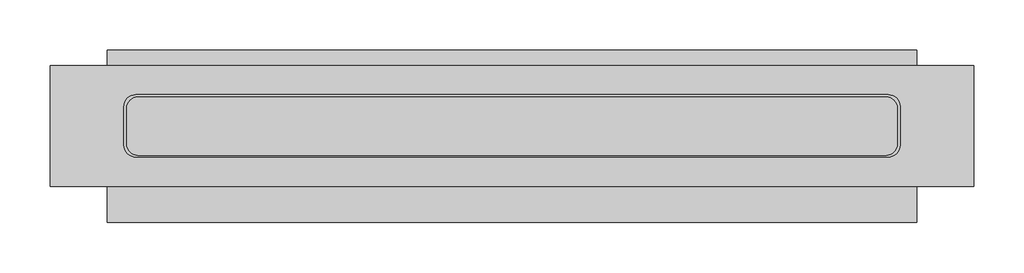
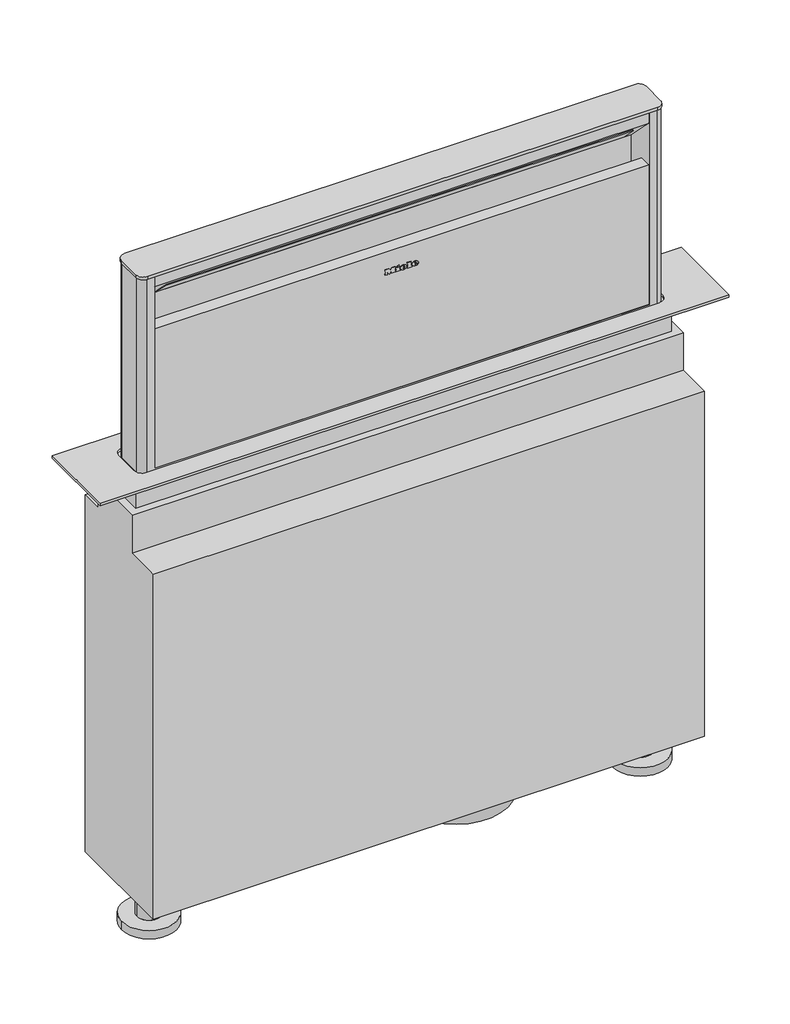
# Not in any storey: 1 proxy.
"""IFC4 building model written with IfcOpenShell, lengths in millimetres."""

import ifcopenshell
import ifcopenshell.guid

model = None  # the IFC model being written
_history = None  # IfcOwnerHistory: only IFC2X3 demands one
_inside = {}  # id of a spatial element -> (the spatial element, [elements in it])
_under = {}  # id of a project, library or spatial element -> (it, [spatial elements below it])
_declared = {}  # id of a project -> (the project, [libraries it declares])
_typed = {}  # id of a type object -> (the type object, [elements of that type])
_made_of = {}  # id of a material, layer set ... -> (it, [elements and type objects made of it])


def new_model(schema):
    """Start an empty IFC model of exactly this schema.

    Asked for "IFC4X3", IfcOpenShell would pick the latest addendum, in which some entities
    have other attributes; the version numbers below select the first issue.
    IFC2X3 requires an IfcOwnerHistory on every rooted entity: one is made here for all.
    """
    global model, _history
    if schema == "IFC4X3":
        model = ifcopenshell.file(schema_version=(4, 3, 0, 0))
    else:
        model = ifcopenshell.file(schema=schema)
    _inside.clear()
    _under.clear()
    _declared.clear()
    _typed.clear()
    _made_of.clear()
    _history = None
    if model.schema == "IFC2X3":
        org = make("IfcOrganization", Name="unknown")
        user = make(
            "IfcPersonAndOrganization",
            ThePerson=make("IfcPerson", FamilyName="unknown"),
            TheOrganization=org,
        )
        app = make(
            "IfcApplication",
            ApplicationDeveloper=org,
            Version="unknown",
            ApplicationFullName="unknown",
            ApplicationIdentifier="unknown",
        )
        _history = make(
            "IfcOwnerHistory",
            OwningUser=user,
            OwningApplication=app,
            ChangeAction="ADDED",
            CreationDate=0,
        )
    return model


def make(cls, **values):
    """One entity of the class cls with the attributes given. An attribute that is None is left unset."""
    return model.create_entity(
        cls, **{name: value for name, value in values.items() if value is not None}
    )


def rooted(cls, **values):
    """An entity with a GlobalId (a new one), such as an element, a storey or a relation."""
    return make(cls, GlobalId=ifcopenshell.guid.new(), OwnerHistory=_history, **values)


def si_unit(unit_type, name, prefix=None):
    """IfcSIUnit, for example si_unit("LENGTHUNIT", "METRE", prefix="MILLI")."""
    return make("IfcSIUnit", UnitType=unit_type, Prefix=prefix, Name=name)


def assignment(units):
    """IfcUnitAssignment: the units of a project."""
    return None if units is None else make("IfcUnitAssignment", Units=units)


def point(xyz):
    """IfcCartesianPoint."""
    return None if xyz is None else make("IfcCartesianPoint", Coordinates=xyz)


def direction(xyz):
    """IfcDirection."""
    return None if xyz is None else make("IfcDirection", DirectionRatios=xyz)


def frame(location, z_axis=None, x_axis=None):
    """IfcAxis2Placement3D, a coordinate frame: its origin and axes. An axis left out is left unset."""
    return make(
        "IfcAxis2Placement3D",
        Location=point(location),
        Axis=direction(z_axis),
        RefDirection=direction(x_axis),
    )


def frame_2d(location, x_axis=None):
    """IfcAxis2Placement2D, a coordinate frame in the plane: its origin and x axis."""
    return make(
        "IfcAxis2Placement2D", Location=point(location), RefDirection=direction(x_axis)
    )


def origin():
    """The frame at (0, 0, 0) with its axes left unset."""
    return frame((0.0, 0.0, 0.0))


def origin_with_axes():
    """The frame at (0, 0, 0) with the z axis (0, 0, 1) and the x axis (1, 0, 0) written out."""
    return frame((0.0, 0.0, 0.0), z_axis=(0.0, 0.0, 1.0), x_axis=(1.0, 0.0, 0.0))


def place(relative_to, where):
    """IfcLocalPlacement: puts the frame where relative to a parent placement (None: the world)."""
    return make(
        "IfcLocalPlacement", PlacementRelTo=relative_to, RelativePlacement=where
    )


def context(
    kind, dimensions, precision=None, world=None, true_north=None, identifier=None
):
    """IfcGeometricRepresentationContext, for example the 3D "Model" context."""
    return make(
        "IfcGeometricRepresentationContext",
        ContextIdentifier=identifier,
        ContextType=kind,
        CoordinateSpaceDimension=dimensions,
        Precision=precision,
        WorldCoordinateSystem=world,
        TrueNorth=true_north,
    )


def project(units=None, contexts=None):
    """IfcProject with its units and contexts."""
    return rooted(
        "IfcProject",
        Name="project",
        RepresentationContexts=contexts,
        UnitsInContext=assignment(units),
    )


def spatial(cls, under=None, at=None, **own):
    """A site, building, storey or space (cls), placed at a placement, below another one or the project."""
    s = rooted(cls, ObjectPlacement=at, **own)
    if under is not None:
        _under.setdefault(under.id(), (under, []))[1].append(s)
    return s


def polyline(points):
    """IfcPolyline through the points."""
    return make("IfcPolyline", Points=[point(p) for p in points])


def circle_curve(where, radius):
    """IfcCircle in the frame where."""
    return make("IfcCircle", Position=where, Radius=radius)


def ellipse_curve(where, semi_axis1, semi_axis2):
    """IfcEllipse in the frame where."""
    return make(
        "IfcEllipse", Position=where, SemiAxis1=semi_axis1, SemiAxis2=semi_axis2
    )


def trimmed(basis, trim1, trim2, sense, master):
    """IfcTrimmedCurve: the piece of a basis curve between two trims."""
    return make(
        "IfcTrimmedCurve",
        BasisCurve=basis,
        Trim1=trim1,
        Trim2=trim2,
        SenseAgreement=sense,
        MasterRepresentation=master,
    )


def segment(curve, same_sense, transition):
    """IfcCompositeCurveSegment."""
    return make(
        "IfcCompositeCurveSegment",
        Transition=transition,
        SameSense=same_sense,
        ParentCurve=curve,
    )


def composite_curve(segments, self_intersect=None):
    """IfcCompositeCurve: segments joined end to end."""
    return make("IfcCompositeCurve", Segments=segments, SelfIntersect=self_intersect)


def outline(outer, holes=None, kind="AREA"):
    """IfcArbitraryClosedProfileDef: a profile drawn as a closed curve; with holes, ...WithVoids."""
    if holes is None:
        return make("IfcArbitraryClosedProfileDef", ProfileType=kind, OuterCurve=outer)
    return make(
        "IfcArbitraryProfileDefWithVoids",
        ProfileType=kind,
        OuterCurve=outer,
        InnerCurves=holes,
    )


def extrude(swept, where, along, depth):
    """IfcExtrudedAreaSolid: the profile swept, set in the frame where, extruded along a direction by depth."""
    return make(
        "IfcExtrudedAreaSolid",
        SweptArea=swept,
        Position=where,
        ExtrudedDirection=direction(along),
        Depth=depth,
    )


def faces_of(points, faces, orient=None, outer=None):
    """IfcFace entities. A face is a list of loops; a loop is a list of indices into points, from 0.

    orient and outer hold one flag for each loop. By default every Orientation is true, the
    first loop of a face is its IfcFaceOuterBound and the others are IfcFaceBound.
    """
    made = []
    for i, loops in enumerate(faces):
        bounds = []
        for j, loop in enumerate(loops):
            is_outer = j == 0 if outer is None else outer[i][j]
            bounds.append(
                make(
                    "IfcFaceOuterBound" if is_outer else "IfcFaceBound",
                    Bound=make("IfcPolyLoop", Polygon=[points[k] for k in loop]),
                    Orientation=True if orient is None else orient[i][j],
                )
            )
        made.append(make("IfcFace", Bounds=bounds))
    return made


def faceted_brep(points, faces, orient=None, outer=None, voids=None):
    """IfcFacetedBrep: a solid bounded by flat faces; with voids (closed shells), ...WithVoids."""
    shared = [point(p) for p in points]
    hull = make("IfcClosedShell", CfsFaces=faces_of(shared, faces, orient, outer))
    if voids is None:
        return make("IfcFacetedBrep", Outer=hull)
    return make(
        "IfcFacetedBrepWithVoids",
        Outer=hull,
        Voids=[
            make(cls, CfsFaces=faces_of(shared, fs, o, b)) for cls, fs, o, b in voids
        ],
    )


def shape(context_of_items, identifier, shape_type, items):
    """IfcShapeRepresentation: the items that make up one representation, for example the "Body"."""
    return make(
        "IfcShapeRepresentation",
        ContextOfItems=context_of_items,
        RepresentationIdentifier=identifier,
        RepresentationType=shape_type,
        Items=items,
    )


def source(mapping_origin, context_of_items, identifier, shape_type, items):
    """IfcRepresentationMap: a shape defined once, which mapped items show again and again."""
    return make(
        "IfcRepresentationMap",
        MappingOrigin=mapping_origin,
        MappedRepresentation=shape(context_of_items, identifier, shape_type, items),
    )


def transform(
    local_origin,
    x_axis=None,
    y_axis=None,
    z_axis=None,
    scale=None,
    scale2=None,
    scale3=None,
    uniform=True,
):
    """IfcCartesianTransformationOperator3D, or its non-uniform kind. x_axis, y_axis, z_axis: its Axis1, 2, 3."""
    if uniform:
        return make(
            "IfcCartesianTransformationOperator3D",
            Axis1=direction(x_axis),
            Axis2=direction(y_axis),
            LocalOrigin=point(local_origin),
            Scale=scale,
            Axis3=direction(z_axis),
        )
    return make(
        "IfcCartesianTransformationOperator3DnonUniform",
        Axis1=direction(x_axis),
        Axis2=direction(y_axis),
        LocalOrigin=point(local_origin),
        Scale=scale,
        Axis3=direction(z_axis),
        Scale2=scale2,
        Scale3=scale3,
    )


def mapped(mapping_source, mapping_target):
    """IfcMappedItem: shows the shape of a source again, moved by a transform."""
    return make(
        "IfcMappedItem", MappingSource=mapping_source, MappingTarget=mapping_target
    )


def made_of(thing, what):
    """Note that an element or type object is made of a material, layer set ...; save() writes the relation."""
    if what is not None:
        _made_of.setdefault(what.id(), (what, []))[1].append(thing)
    return thing


def element(
    cls,
    number,
    at=None,
    inside=None,
    cuts=None,
    type_object=None,
    material=None,
    context=None,
    identifier="Body",
    shape_type=None,
    held_by="IfcProductDefinitionShape",
    body=None,
    shapes=None,
    **own,
):
    """One element of the class cls, such as IfcWall. Its Tag is "e" and its number.

    at: its placement. inside: the storey or other place that contains it. cuts: it is an
    opening in that element (IfcRelVoidsElement). A single representation is given by context,
    identifier, shape_type and body (its items); several are given by shapes. held_by: the class
    of the entity that holds the representations. save() writes the other relations.
    """
    e = rooted(cls, Tag="e%d" % number, ObjectPlacement=at, **own)
    if body is not None:
        shapes = [shape(context, identifier, shape_type, body)]
    if shapes is not None:
        e.Representation = make(held_by, Representations=shapes)
    if inside is not None:
        _inside.setdefault(inside.id(), (inside, []))[1].append(e)
    if cuts is not None:
        rooted(
            "IfcRelVoidsElement", RelatingBuildingElement=cuts, RelatedOpeningElement=e
        )
    if type_object is not None:
        _typed.setdefault(type_object.id(), (type_object, []))[1].append(e)
    return made_of(e, material)


def aggregate(whole, parts):
    """IfcRelAggregates: a whole, such as a stair, and the parts it consists of."""
    return rooted("IfcRelAggregates", RelatingObject=whole, RelatedObjects=parts)


def save(model, path):
    """Write the relations noted so far, then the file.

    IfcRelAggregates (storeys below a building ...), IfcRelContainedInSpatialStructure (elements
    in a storey), IfcRelDefinesByType, IfcRelAssociatesMaterial and IfcRelDeclares: one each for
    every whole, place, type object, material and project.
    """
    for whole, parts in _under.values():
        aggregate(whole, parts)
    for where, things in _inside.values():
        rooted(
            "IfcRelContainedInSpatialStructure",
            RelatedElements=things,
            RelatingStructure=where,
        )
    for kind, things in _typed.values():
        rooted("IfcRelDefinesByType", RelatedObjects=things, RelatingType=kind)
    for what, things in _made_of.values():
        rooted("IfcRelAssociatesMaterial", RelatedObjects=things, RelatingMaterial=what)
    for by, libraries in _declared.values():
        rooted("IfcRelDeclares", RelatingContext=by, RelatedDefinitions=libraries)
    model.write(path)


def plane_surface(at):
    """IfcPlane: the flat surface through the origin of the frame at, square to its z axis."""
    return make("IfcPlane", Position=at)


def cylinder_surface(at, radius):
    """IfcCylindricalSurface: all points at the distance radius from the z axis of the frame at."""
    return make("IfcCylindricalSurface", Position=at, Radius=radius)


def revolved_surface(curve, axis_point, axis_direction):
    """IfcSurfaceOfRevolution: the curve turned about the line through axis_point along axis_direction."""
    return make(
        "IfcSurfaceOfRevolution",
        SweptCurve=make("IfcArbitraryOpenProfileDef", ProfileType="CURVE", Curve=curve),
        AxisPosition=make("IfcAxis1Placement", Location=point(axis_point), Axis=direction(axis_direction)),
    )


def extruded_surface(curve, direction_of_extrusion, depth):
    """IfcSurfaceOfLinearExtrusion: the curve pushed along a direction by depth."""
    return make(
        "IfcSurfaceOfLinearExtrusion",
        SweptCurve=make("IfcArbitraryOpenProfileDef", ProfileType="CURVE", Curve=curve),
        ExtrudedDirection=direction(direction_of_extrusion),
        Depth=depth,
    )


def advanced_brep(points, edges, surfaces, faces):
    """IfcAdvancedBrep: a solid bounded by faces that lie on surfaces and meet in shared edges.

    An edge is (start, end): straight between two places in points (the first is 0);
    or (start, end, curve); or (start, end, curve, False) where it runs against its curve.
    A face is (place in surfaces, loops), or (place, loops, False) where it looks against
    its surface's normal. A loop lists edges by number (the first is 1), with a minus sign
    where the edge is run from its end to its start. The first loop is the outer one.
    """
    corners = [point(p) for p in points]
    vertices = [make("IfcVertexPoint", VertexGeometry=c) for c in corners]
    made = []
    for start, end, *more in edges:
        made.append(
            make(
                "IfcEdgeCurve",
                EdgeStart=vertices[start],
                EdgeEnd=vertices[end],
                EdgeGeometry=more[0] if more else make("IfcPolyline", Points=[corners[start], corners[end]]),
                SameSense=more[1] if len(more) > 1 else True,
            )
        )
    hull = []
    for where, loops, *sense in faces:
        bounds = []
        for j, loop in enumerate(loops):
            ring = [make("IfcOrientedEdge", EdgeElement=made[abs(k) - 1], Orientation=k > 0) for k in loop]
            bounds.append(
                make(
                    "IfcFaceOuterBound" if j == 0 else "IfcFaceBound",
                    Bound=make("IfcEdgeLoop", EdgeList=ring),
                    Orientation=True,
                )
            )
        hull.append(make("IfcAdvancedFace", Bounds=bounds, FaceSurface=surfaces[where], SameSense=sense[0] if sense else True))
    return make("IfcAdvancedBrep", Outer=make("IfcClosedShell", CfsFaces=hull))


def specialty_equipment_7072770c(model_context):
    return source(origin(), model_context, "Body", "SolidModel", [
        extrude(outline(polyline([(190.696, -25.0), (190.696, -24.032), (185.344, -24.032), (185.344, -25.0), (184.0, -25.0), (184.0, -21.48), (185.344, -21.48), (185.344, -22.44), (188.7471247, -22.44), (184.0, -18.864), (188.8152223, -15.272), (185.344, -15.272), (185.344, -16.256), (184.0, -16.256), (184.0, -9.872), (185.344, -9.872), (185.344, -10.888), (190.696, -10.888), (190.696, -9.872), (192.0, -9.872), (192.0, -14.744), (189.0, -17.08), (192.0, -19.424), (192.0, -25.0), (190.696, -25.0)])), frame((0.0, -104.0, 0.0), z_axis=(0.0, 1.0, 0.0), x_axis=(0.0, 0.0, 1.0)), (0.0, 0.0, 1.0), 1.0),
        extrude(outline(polyline([(190.696, 7.464), (190.696, 8.424), (185.344, 8.424), (185.344, 7.464), (184.0, 7.464), (184.0, 13.952), (185.344, 13.952), (185.344, 12.968), (192.0, 12.968), (192.0, 7.464), (190.696, 7.464)])), frame((0.0, -104.0, 0.0), z_axis=(0.0, 1.0, 0.0), x_axis=(0.0, 0.0, 1.0)), (0.0, 0.0, 1.0), 1.0),
        extrude(outline(polyline([(191.528, -7.08), (190.232, -6.472), (191.496, -3.76), (192.792, -4.36), (191.528, -7.08)])), frame((0.0, -104.0, 0.0), z_axis=(0.0, 1.0, 0.0), x_axis=(0.0, 0.0, 1.0)), (0.0, 0.0, 1.0), 1.0),
        extrude(outline(polyline([(190.056, -9.056), (188.624, -9.056), (188.624, -8.104), (185.344, -8.104), (185.344, -9.056), (184.0, -9.056), (184.0, -2.744), (185.344, -2.744), (185.344, -3.672), (190.056, -3.672), (190.056, -9.056)])), frame((0.0, -104.0, 0.0), z_axis=(0.0, 1.0, 0.0), x_axis=(0.0, 0.0, 1.0)), (0.0, 0.0, 1.0), 1.0),
        advanced_brep(
        [(1.664, -104.0, 185.896), (1.664, -104.0, 186.704), (7.016, -104.0, 186.704), (-2.296, -104.0, 186.704), (-0.096, -104.0, 184.0), (6.88, -104.0, 185.896), (4.464, -104.0, 185.896), (2.56, -104.0, 185.0), (1.664, -104.0, 187.728), (1.664, -104.0, 188.6), (3.032, -104.0, 188.6), (3.032, -104.0, 187.728), (1.664, -103.0, 185.896), (2.56, -103.0, 185.0), (4.464, -103.0, 185.896), (6.88, -103.0, 185.896), (-0.096, -103.0, 184.0), (-2.296, -103.0, 186.704), (7.016, -103.0, 186.704), (1.664, -103.0, 186.704), (1.664, -103.0, 187.728), (3.032, -103.0, 187.728), (3.032, -103.0, 188.6), (1.664, -103.0, 188.6)],
        [
            (0, 1),
            (1, 2),
            (2, 3, ellipse_curve(frame((2.36, -104.0, 186.704), z_axis=(0.0, -1.0, 0.0), x_axis=(-1.0, 0.0, 0.0)), 4.656, 3.848)),
            (3, 4, circle_curve(frame((0.8000436, -104.0, 186.976), z_axis=(0.0, -1.0, 0.0), x_axis=(0.0, 0.0, -1.0)), 3.1079688)),
            (4, 5, circle_curve(frame((2.2667936, -104.0, 189.088), z_axis=(0.0, -1.0, 0.0), x_axis=(0.0, 0.0, -1.0)), 5.6098607)),
            (5, 6),
            (6, 7, circle_curve(frame((2.9510588, -104.0, 186.64), z_axis=(0.0, 1.0, 0.0), x_axis=(0.0, 0.0, -1.0)), 1.6859795)),
            (7, 0, circle_curve(frame((2.56, -104.0, 185.896), z_axis=(0.0, 1.0, 0.0), x_axis=(0.0, 0.0, -1.0)), 0.896)),
            (8, 9),
            (9, 10, circle_curve(frame((2.348, -104.0, 188.6), z_axis=(0.0, 1.0, 0.0), x_axis=(0.0, 0.0, -1.0)), 0.684)),
            (10, 11),
            (11, 8),
            (12, 13, circle_curve(frame((2.56, -103.0, 185.896), z_axis=(0.0, -1.0, 0.0), x_axis=(0.0, 0.0, -1.0)), 0.896)),
            (13, 14, circle_curve(frame((2.9510588, -103.0, 186.64), z_axis=(0.0, -1.0, 0.0), x_axis=(0.0, 0.0, -1.0)), 1.6859795)),
            (14, 15),
            (15, 16, circle_curve(frame((2.2667936, -103.0, 189.088), z_axis=(0.0, 1.0, 0.0), x_axis=(0.0, 0.0, -1.0)), 5.6098607)),
            (16, 17, circle_curve(frame((0.8000436, -103.0, 186.976), z_axis=(0.0, 1.0, 0.0), x_axis=(0.0, 0.0, -1.0)), 3.1079688)),
            (17, 18, ellipse_curve(frame((2.36, -103.0, 186.704), z_axis=(0.0, 1.0, 0.0), x_axis=(-1.0, 0.0, 0.0)), 4.656, 3.848)),
            (18, 19),
            (19, 12),
            (20, 21),
            (21, 22),
            (22, 23, circle_curve(frame((2.348, -103.0, 188.6), z_axis=(0.0, -1.0, 0.0), x_axis=(0.0, 0.0, -1.0)), 0.684)),
            (23, 20),
            (0, 12),
            (19, 1),
            (18, 2),
            (5, 15),
            (14, 6),
            (17, 3),
            (13, 7),
            (16, 4),
            (8, 20),
            (23, 9),
            (22, 10),
            (21, 11),
        ],
        [
            plane_surface(frame((1.664, -104.0, 186.704), z_axis=(0.0, -1.0, 0.0), x_axis=(0.0, 0.0, 1.0))),
            plane_surface(frame((1.664, -103.0, 186.704), z_axis=(0.0, 1.0, 0.0), x_axis=(0.0, 0.0, -1.0))),
            plane_surface(frame((1.664, -104.0, 185.896), z_axis=(1.0, 0.0, 0.0), x_axis=(0.0, 1.0, 0.0))),
            plane_surface(frame((1.664, -104.0, 186.704), z_axis=(0.0, 0.0, -1.0), x_axis=(0.0, 1.0, 0.0))),
            plane_surface(frame((6.88, -104.0, 185.896), z_axis=(0.0, 0.0, 1.0), x_axis=(0.0, 1.0, 0.0))),
            extruded_surface(trimmed(ellipse_curve(frame((2.36, -102.0, 186.704), z_axis=(0.0, -1.0, 0.0), x_axis=(-1.0, 0.0, 0.0)), 4.656, 3.848), [point((7.016, -102.0, 186.704))], [point((-2.296, -102.0, 186.704))], True, "CARTESIAN"), (0.0, -1.0, 0.0), 1.0),
            revolved_surface(polyline([(2.9510588, -103.0, 184.95402049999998), (2.9510588, -104.0, 184.95402049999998)]), (2.9510588, -103.0, 186.64), (0.0, 1.0, 0.0)),
            revolved_surface(polyline([(2.56, -103.0, 185.0), (2.56, -104.0, 185.0)]), (2.56, -103.0, 185.896), (0.0, 1.0, 0.0)),
            cylinder_surface(frame((0.8000436, -103.0, 186.976), z_axis=(0.0, -1.0, 0.0), x_axis=(0.0, 0.0, -1.0)), 3.1079688),
            cylinder_surface(frame((2.2667936, -103.0, 189.088), z_axis=(0.0, -1.0, 0.0), x_axis=(0.0, 0.0, -1.0)), 5.6098607),
            plane_surface(frame((1.664, -104.0, 187.728), z_axis=(1.0, 0.0, 0.0), x_axis=(0.0, 1.0, 0.0))),
            revolved_surface(polyline([(2.348, -103.0, 187.916), (2.348, -104.0, 187.916)]), (2.348, -103.0, 188.6), (0.0, 1.0, 0.0)),
            plane_surface(frame((3.032, -104.0, 188.6), z_axis=(-1.0, 0.0, 0.0), x_axis=(0.0, 1.0, 0.0))),
            plane_surface(frame((3.032, -104.0, 187.728), z_axis=(0.0, 0.0, 1.0), x_axis=(0.0, 1.0, 0.0))),
        ],
        [
            (0, [[1, 2, 3, 4, 5, 6, 7, 8], [9, 10, 11, 12]]),
            (1, [[13, 14, 15, 16, 17, 18, 19, 20], [21, 22, 23, 24]]),
            (2, [[-1, 25, -20, 26]]),
            (3, [[-2, -26, -19, 27]]),
            (4, [[-6, 28, -15, 29]]),
            (5, [[-3, -27, -18, 30]]),
            (6, [[-7, -29, -14, 31]]),
            (7, [[-8, -31, -13, -25]]),
            (8, [[-4, -30, -17, 32]]),
            (9, [[-5, -32, -16, -28]]),
            (10, [[-9, 33, -24, 34]]),
            (11, [[-10, -34, -23, 35]]),
            (12, [[-11, -35, -22, 36]]),
            (13, [[-12, -36, -21, -33]]),
        ],
    ),
        advanced_brep(
        [(18.36, -104.0, 185.896), (18.36, -104.0, 186.704), (23.712, -104.0, 186.704), (14.4, -104.0, 186.704), (16.6, -104.0, 184.0), (23.576, -104.0, 185.896), (21.16, -104.0, 185.896), (19.256, -104.0, 185.0), (18.36, -104.0, 187.728), (18.36, -104.0, 188.6), (19.728, -104.0, 188.6), (19.728, -104.0, 187.728), (18.36, -103.0, 185.896), (19.256, -103.0, 185.0), (21.16, -103.0, 185.896), (23.576, -103.0, 185.896), (16.6, -103.0, 184.0), (14.4, -103.0, 186.704), (23.712, -103.0, 186.704), (18.36, -103.0, 186.704), (18.36, -103.0, 187.728), (19.728, -103.0, 187.728), (19.728, -103.0, 188.6), (18.36, -103.0, 188.6)],
        [
            (0, 1),
            (1, 2),
            (2, 3, ellipse_curve(frame((19.056, -104.0, 186.704), z_axis=(0.0, -1.0, 0.0), x_axis=(-1.0, 0.0, 0.0)), 4.656, 3.848)),
            (3, 4, circle_curve(frame((17.4960436, -104.0, 186.976), z_axis=(0.0, -1.0, 0.0), x_axis=(0.0, 0.0, -1.0)), 3.1079688)),
            (4, 5, circle_curve(frame((18.9627936, -104.0, 189.088), z_axis=(0.0, -1.0, 0.0), x_axis=(0.0, 0.0, -1.0)), 5.6098607)),
            (5, 6),
            (6, 7, circle_curve(frame((19.6470588, -104.0, 186.64), z_axis=(0.0, 1.0, 0.0), x_axis=(0.0, 0.0, -1.0)), 1.6859795)),
            (7, 0, circle_curve(frame((19.256, -104.0, 185.896), z_axis=(0.0, 1.0, 0.0), x_axis=(0.0, 0.0, -1.0)), 0.896)),
            (8, 9),
            (9, 10, circle_curve(frame((19.044, -104.0, 188.6), z_axis=(0.0, 1.0, 0.0), x_axis=(0.0, 0.0, -1.0)), 0.684)),
            (10, 11),
            (11, 8),
            (12, 13, circle_curve(frame((19.256, -103.0, 185.896), z_axis=(0.0, -1.0, 0.0), x_axis=(0.0, 0.0, -1.0)), 0.896)),
            (13, 14, circle_curve(frame((19.6470588, -103.0, 186.64), z_axis=(0.0, -1.0, 0.0), x_axis=(0.0, 0.0, -1.0)), 1.6859795)),
            (14, 15),
            (15, 16, circle_curve(frame((18.9627936, -103.0, 189.088), z_axis=(0.0, 1.0, 0.0), x_axis=(0.0, 0.0, -1.0)), 5.6098607)),
            (16, 17, circle_curve(frame((17.4960436, -103.0, 186.976), z_axis=(0.0, 1.0, 0.0), x_axis=(0.0, 0.0, -1.0)), 3.1079688)),
            (17, 18, ellipse_curve(frame((19.056, -103.0, 186.704), z_axis=(0.0, 1.0, 0.0), x_axis=(-1.0, 0.0, 0.0)), 4.656, 3.848)),
            (18, 19),
            (19, 12),
            (20, 21),
            (21, 22),
            (22, 23, circle_curve(frame((19.044, -103.0, 188.6), z_axis=(0.0, -1.0, 0.0), x_axis=(0.0, 0.0, -1.0)), 0.684)),
            (23, 20),
            (0, 12),
            (19, 1),
            (18, 2),
            (5, 15),
            (14, 6),
            (17, 3),
            (13, 7),
            (16, 4),
            (8, 20),
            (23, 9),
            (22, 10),
            (21, 11),
        ],
        [
            plane_surface(frame((18.36, -104.0, 186.704), z_axis=(0.0, -1.0, 0.0), x_axis=(0.0, 0.0, 1.0))),
            plane_surface(frame((18.36, -103.0, 186.704), z_axis=(0.0, 1.0, 0.0), x_axis=(0.0, 0.0, -1.0))),
            plane_surface(frame((18.36, -104.0, 185.896), z_axis=(1.0, 0.0, 0.0), x_axis=(0.0, 1.0, 0.0))),
            plane_surface(frame((18.36, -104.0, 186.704), z_axis=(0.0, 0.0, -1.0), x_axis=(0.0, 1.0, 0.0))),
            plane_surface(frame((23.576, -104.0, 185.896), z_axis=(0.0, 0.0, 1.0), x_axis=(0.0, 1.0, 0.0))),
            extruded_surface(trimmed(ellipse_curve(frame((19.056, -102.0, 186.704), z_axis=(0.0, -1.0, 0.0), x_axis=(-1.0, 0.0, 0.0)), 4.656, 3.848), [point((23.712, -102.0, 186.704))], [point((14.4, -102.0, 186.704))], True, "CARTESIAN"), (0.0, -1.0, 0.0), 1.0),
            revolved_surface(polyline([(19.6470588, -103.0, 184.95402049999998), (19.6470588, -104.0, 184.95402049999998)]), (19.6470588, -103.0, 186.64), (0.0, 1.0, 0.0)),
            revolved_surface(polyline([(19.256, -103.0, 185.0), (19.256, -104.0, 185.0)]), (19.256, -103.0, 185.896), (0.0, 1.0, 0.0)),
            cylinder_surface(frame((17.4960436, -103.0, 186.976), z_axis=(0.0, -1.0, 0.0), x_axis=(0.0, 0.0, -1.0)), 3.1079688),
            cylinder_surface(frame((18.9627936, -103.0, 189.088), z_axis=(0.0, -1.0, 0.0), x_axis=(0.0, 0.0, -1.0)), 5.6098607),
            plane_surface(frame((18.36, -104.0, 187.728), z_axis=(1.0, 0.0, 0.0), x_axis=(0.0, 1.0, 0.0))),
            revolved_surface(polyline([(19.044, -103.0, 187.916), (19.044, -104.0, 187.916)]), (19.044, -103.0, 188.6), (0.0, 1.0, 0.0)),
            plane_surface(frame((19.728, -104.0, 188.6), z_axis=(-1.0, 0.0, 0.0), x_axis=(0.0, 1.0, 0.0))),
            plane_surface(frame((19.728, -104.0, 187.728), z_axis=(0.0, 0.0, 1.0), x_axis=(0.0, 1.0, 0.0))),
        ],
        [
            (0, [[1, 2, 3, 4, 5, 6, 7, 8], [9, 10, 11, 12]]),
            (1, [[13, 14, 15, 16, 17, 18, 19, 20], [21, 22, 23, 24]]),
            (2, [[-1, 25, -20, 26]]),
            (3, [[-2, -26, -19, 27]]),
            (4, [[-6, 28, -15, 29]]),
            (5, [[-3, -27, -18, 30]]),
            (6, [[-7, -29, -14, 31]]),
            (7, [[-8, -31, -13, -25]]),
            (8, [[-4, -30, -17, 32]]),
            (9, [[-5, -32, -16, -28]]),
            (10, [[-9, 33, -24, 34]]),
            (11, [[-10, -34, -23, 35]]),
            (12, [[-11, -35, -22, 36]]),
            (13, [[-12, -36, -21, -33]]),
        ],
    ),
        extrude(outline(composite_curve([segment(trimmed(circle_curve(frame_2d((89.2, -85.8647958)), 75.0), [point((14.2, -85.8647958))], [point((164.2, -85.8647958))], False, "CARTESIAN"), True, "CONTINUOUS"), segment(trimmed(circle_curve(frame_2d((89.2, -85.8647958)), 75.0), [point((164.2, -85.8647958))], [point((14.2, -85.8647958))], False, "CARTESIAN"), True, "CONTINUOUS")], self_intersect=False)), frame((0.0, 0.0, -659.0), z_axis=(0.0, 0.0, 1.0), x_axis=(1.0, 0.0, 0.0)), (0.0, 0.0, 1.0), 25.0),
        extrude(outline(composite_curve([segment(trimmed(circle_curve(frame_2d((371.1814118, -57.4008786)), 11.0228003), [point((371.1814118, -46.3780783))], [point((382.2042121, -57.4008786))], False, "CARTESIAN"), True, "CONTINUOUS"), segment(polyline([(382.2042121, -57.4008786), (382.2042121, -93.3997352)]), True, "CONTINUOUS"), segment(trimmed(circle_curve(frame_2d((371.225869, -93.3997352)), 10.9783431), [point((382.2042121, -93.3997352))], [point((371.225869, -104.3780783))], False, "CARTESIAN"), True, "CONTINUOUS"), segment(polyline([(371.225869, -104.3780783), (-371.2377642, -104.3780783)]), True, "CONTINUOUS"), segment(trimmed(circle_curve(frame_2d((-371.2377642, -93.4116304)), 10.9664479), [point((-371.2377642, -104.3780783))], [point((-382.2042121, -93.4116304))], False, "CARTESIAN"), True, "CONTINUOUS"), segment(polyline([(-382.2042121, -93.4116304), (-382.2042121, -57.3636674)]), True, "CONTINUOUS"), segment(trimmed(circle_curve(frame_2d((-371.218623, -57.3636674)), 10.9855891), [point((-382.2042121, -57.3636674))], [point((-371.218623, -46.3780783))], False, "CARTESIAN"), True, "CONTINUOUS"), segment(polyline([(-371.218623, -46.3780783), (371.1814118, -46.3780783)]), True, "CONTINUOUS")], self_intersect=False)), frame((0.0, 0.0, 299.5725648), z_axis=(0.0, 0.0, 1.0), x_axis=(1.0, 0.0, 0.0)), (0.0, 0.0, 1.0), 4.4274352),
        advanced_brep(
        [(371.2042121, -47.3780783, 299.5725648), (-371.2042121, -47.3780783, 299.5725648), (-381.2042121, -57.3780783, 299.5725648), (-381.2042121, -93.3780783, 299.5725648), (-371.2042121, -103.3780783, 299.5725648), (-359.9100986, -103.3780783, 299.5725648), (-359.9100986, -103.1609893, 299.5725648), (359.9100986, -103.1609893, 299.5725648), (359.9100986, -103.3780783, 299.5725648), (371.2042121, -103.3780783, 299.5725648), (381.2042121, -93.3780783, 299.5725648), (381.2042121, -57.3780783, 299.5725648), (371.2042121, -47.3780783, 0.0), (381.2042121, -57.3780783, 0.0), (381.2042121, -93.3780783, 0.0), (371.2042121, -103.3780783, 0.0), (-371.2042121, -103.3780783, 0.0), (-381.2042121, -93.3780783, 0.0), (-381.2042121, -57.3780783, 0.0), (-371.2042121, -47.3780783, 0.0), (359.9100986, -103.3780783, 4.0), (-359.9100986, -103.3780783, 4.0), (359.9100986, -58.0, 237.9815659), (359.9100986, -58.0, 147.0), (359.9100986, -79.1055209, 147.0), (359.9100986, -85.0, 219.0), (359.9100986, -103.1609893, 219.0), (359.9100986, -103.1609893, 4.0), (359.9100986, -103.1609893, 283.1425552), (-359.9100986, -85.0, 219.0), (-359.9100986, -79.1055209, 147.0), (-359.9100986, -58.0, 147.0), (-359.9100986, -58.0, 237.9815659), (-359.9100986, -103.1609893, 283.1425552), (-359.9100986, -103.1609893, 4.0), (-359.9100986, -103.1609893, 219.0)],
        [
            (0, 1),
            (1, 2, circle_curve(frame((-371.2042121, -57.3780783, 299.5725648), z_axis=(0.0, 0.0, 1.0), x_axis=(1.0, 0.0, 0.0)), 10.0)),
            (2, 3),
            (3, 4, circle_curve(frame((-371.2042121, -93.3780783, 299.5725648), z_axis=(0.0, 0.0, 1.0), x_axis=(1.0, 0.0, 0.0)), 10.0)),
            (4, 5),
            (5, 6),
            (6, 7),
            (7, 8),
            (8, 9),
            (9, 10, circle_curve(frame((371.2042121, -93.3780783, 299.5725648), z_axis=(0.0, 0.0, 1.0), x_axis=(1.0, 0.0, 0.0)), 10.0)),
            (10, 11),
            (11, 0, circle_curve(frame((371.2042121, -57.3780783, 299.5725648), z_axis=(0.0, 0.0, 1.0), x_axis=(1.0, 0.0, 0.0)), 10.0)),
            (12, 13, circle_curve(frame((371.2042121, -57.3780783, 0.0), z_axis=(0.0, 0.0, -1.0), x_axis=(1.0, 0.0, 0.0)), 10.0)),
            (13, 14),
            (14, 15, circle_curve(frame((371.2042121, -93.3780783, 0.0), z_axis=(0.0, 0.0, -1.0), x_axis=(1.0, 0.0, 0.0)), 10.0)),
            (15, 16),
            (16, 17, circle_curve(frame((-371.2042121, -93.3780783, 0.0), z_axis=(0.0, 0.0, -1.0), x_axis=(1.0, 0.0, 0.0)), 10.0)),
            (17, 18),
            (18, 19, circle_curve(frame((-371.2042121, -57.3780783, 0.0), z_axis=(0.0, 0.0, -1.0), x_axis=(1.0, 0.0, 0.0)), 10.0)),
            (19, 12),
            (0, 12),
            (19, 1),
            (2, 18),
            (17, 3),
            (15, 9),
            (8, 20),
            (20, 21),
            (21, 5),
            (4, 16),
            (10, 14),
            (13, 11),
            (22, 23),
            (23, 24),
            (24, 25),
            (25, 26),
            (26, 27),
            (27, 20),
            (7, 28),
            (28, 22),
            (29, 30),
            (30, 31),
            (31, 32),
            (32, 33),
            (33, 6),
            (21, 34),
            (34, 35),
            (35, 29),
            (32, 22),
            (28, 33),
            (25, 29),
            (35, 26),
            (24, 30),
            (23, 31),
            (34, 27),
        ],
        [
            plane_surface(frame((-371.2042121, -47.3780783, 299.5725648), z_axis=(0.0, 0.0, 1.0), x_axis=(-1.0, 0.0, 0.0))),
            plane_surface(frame((-371.2042121, -47.3780783, 0.0), z_axis=(0.0, 0.0, -1.0), x_axis=(1.0, 0.0, 0.0))),
            plane_surface(frame((371.2042121, -47.3780783, 299.5725648), z_axis=(0.0, 1.0, 0.0), x_axis=(0.0, 0.0, -1.0))),
            plane_surface(frame((-381.2042121, -57.3780783, 299.5725648), z_axis=(-1.0, 0.0, 0.0), x_axis=(0.0, 0.0, -1.0))),
            plane_surface(frame((-371.2042121, -103.3780783, 299.5725648), z_axis=(0.0, -1.0, 0.0), x_axis=(0.0, 0.0, -1.0))),
            plane_surface(frame((381.2042121, -93.3780783, 299.5725648), z_axis=(1.0, 0.0, 0.0), x_axis=(0.0, 0.0, -1.0))),
            cylinder_surface(frame((-371.2042121, -57.3780783, 0.0), z_axis=(0.0, 0.0, 1.0), x_axis=(1.0, 0.0, 0.0)), 10.0),
            cylinder_surface(frame((-371.2042121, -93.3780783, 0.0), z_axis=(0.0, 0.0, 1.0), x_axis=(1.0, 0.0, 0.0)), 10.0),
            cylinder_surface(frame((371.2042121, -93.3780783, 0.0), z_axis=(0.0, 0.0, 1.0), x_axis=(1.0, 0.0, 0.0)), 10.0),
            cylinder_surface(frame((371.2042121, -57.3780783, 0.0), z_axis=(0.0, 0.0, 1.0), x_axis=(1.0, 0.0, 0.0)), 10.0),
            plane_surface(frame((359.9100986, -94.4708552, 274.4524211), z_axis=(-1.0, 0.0, 0.0), x_axis=(0.0, -0.7071067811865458, 0.7071067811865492))),
            plane_surface(frame((-359.9100986, -94.4708552, 274.4524211), z_axis=(1.0, 0.0, 0.0), x_axis=(0.0, 0.7071067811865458, -0.7071067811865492))),
            plane_surface(frame((359.9100986, -58.0, 237.9815659), z_axis=(0.0, -0.7071067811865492, -0.7071067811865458), x_axis=(-1.0, 0.0, 0.0))),
            plane_surface(frame((359.9100986, -103.3780783, 219.0), z_axis=(0.0, 0.0, 1.0), x_axis=(-1.0, 0.0, 0.0))),
            plane_surface(frame((359.9100986, -85.0, 219.0), z_axis=(0.0, 0.9966655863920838, 0.08159478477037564), x_axis=(-1.0, 0.0, 0.0))),
            plane_surface(frame((359.9100986, -79.1055209, 147.0), z_axis=(0.0, 0.0, 1.0), x_axis=(-1.0, 0.0, 0.0))),
            plane_surface(frame((359.9100986, -58.0, 147.0), z_axis=(0.0, -1.0, 0.0), x_axis=(-1.0, 0.0, 0.0))),
            plane_surface(frame((268.1830979, -103.1609893, 4.0), z_axis=(0.0, -1.0, 0.0), x_axis=(-1.0, 0.0, 0.0))),
            plane_surface(frame((-359.9100986, -103.3780783, 4.0), z_axis=(0.0, 0.0, 1.0), x_axis=(0.0, 1.0, 0.0))),
        ],
        [
            (0, [[1, 2, 3, 4, 5, 6, 7, 8, 9, 10, 11, 12]]),
            (1, [[13, 14, 15, 16, 17, 18, 19, 20]]),
            (2, [[-1, 21, -20, 22]]),
            (3, [[-3, 23, -18, 24]]),
            (4, [[-16, 25, -9, 26, 27, 28, -5, 29]]),
            (5, [[-11, 30, -14, 31]]),
            (6, [[-2, -22, -19, -23]]),
            (7, [[-4, -24, -17, -29]]),
            (8, [[-10, -25, -15, -30]]),
            (9, [[-12, -31, -13, -21]]),
            (10, [[32, 33, 34, 35, 36, 37, -26, -8, 38, 39]]),
            (11, [[40, 41, 42, 43, 44, -6, -28, 45, 46, 47]]),
            (12, [[48, -39, 49, -43]]),
            (13, [[50, -47, 51, -35]]),
            (14, [[-34, 52, -40, -50]]),
            (15, [[-33, 53, -41, -52]]),
            (16, [[-32, -48, -42, -53]]),
            (17, [[-38, -7, -44, -49]]),
            (17, [[54, -36, -51, -46]]),
            (18, [[-54, -45, -27, -37]]),
        ],
    ),
        faceted_brep([(401.4936189, -32.3, -45.0), (-401.4936189, -32.3, -45.0), (-401.4936189, -117.7, -45.0), (401.4936189, -117.7, -45.0), (-390.0, -43.0, -45.0), (390.0, -43.0, -45.0), (390.0, -107.0, -45.0), (-390.0, -107.0, -45.0), (401.4936189, 0.0, -634.0), (401.4936189, -171.0, -634.0), (-401.4936189, -171.0, -634.0), (-401.4936189, 0.0, -634.0), (-401.4936189, 0.0, -85.0), (401.4936189, 0.0, -85.0), (401.4936189, -171.0, -103.0), (-401.4936189, -171.0, -103.0), (390.0, -43.0, 0.0), (-390.0, -43.0, 0.0), (-390.0, -107.0, 0.0), (390.0, -107.0, 0.0), (-401.4936189, -117.7, -103.0), (-401.4936189, -32.3, -85.0), (401.4936189, -32.3, -85.0), (401.4936189, -117.7, -103.0)], [[[0, 1, 2, 3], [4, 5, 6, 7]], [[8, 9, 10, 11]], [[8, 11, 12, 13]], [[10, 9, 14, 15]], [[16, 17, 18, 19]], [[17, 16, 5, 4]], [[18, 17, 4, 7]], [[19, 18, 7, 6]], [[16, 19, 6, 5]], [[11, 10, 15, 20, 2, 1, 21, 12]], [[9, 8, 13, 22, 0, 3, 23, 14]], [[23, 20, 15, 14]], [[20, 23, 3, 2]], [[22, 21, 1, 0]], [[21, 22, 13, 12]]]),
        extrude(outline(polyline([(458.0, -15.0), (458.0, -135.0), (-458.0, -135.0), (-458.0, -15.0), (458.0, -15.0)]), holes=[composite_curve([segment(polyline([(373.1343386, -44.0), (-373.0956327, -44.0)]), True, "CONTINUOUS"), segment(trimmed(circle_curve(frame_2d((-373.0956327, -56.0)), 12.0), [point((-373.0956327, -44.0))], [point((-385.0956327, -56.0))], True, "CARTESIAN"), True, "CONTINUOUS"), segment(polyline([(-385.0956327, -56.0), (-385.0956327, -94.0)]), True, "CONTINUOUS"), segment(trimmed(circle_curve(frame_2d((-373.0956327, -94.0)), 12.0), [point((-385.0956327, -94.0))], [point((-373.0956327, -106.0))], True, "CARTESIAN"), True, "CONTINUOUS"), segment(polyline([(-373.0956327, -106.0), (373.0753112, -106.0)]), True, "CONTINUOUS"), segment(trimmed(circle_curve(frame_2d((373.0753112, -93.9796784)), 12.0203216), [point((373.0753112, -106.0))], [point((385.0956327, -93.9796784))], True, "CARTESIAN"), True, "CONTINUOUS"), segment(polyline([(385.0956327, -93.9796784), (385.0956327, -55.9612941)]), True, "CONTINUOUS"), segment(trimmed(circle_curve(frame_2d((373.1343386, -55.9612941)), 11.9612941), [point((385.0956327, -55.9612941))], [point((373.1343386, -44.0))], True, "CARTESIAN"), True, "CONTINUOUS")], self_intersect=False)]), origin_with_axes(), (0.0, 0.0, 1.0), 4.0),
        extrude(outline(polyline([(36.0, 0.0), (36.0, -680.0), (0.0, -680.0), (0.0, 0.0), (36.0, 0.0)])), frame((-337.8937642, -94.5300953, 272.3903409), z_axis=(0.0, 0.7071067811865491, 0.707106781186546), x_axis=(0.0, 0.707106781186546, -0.7071067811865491)), (0.0, 0.0, 1.0), 1.5),
        advanced_brep(
        [(317.7840925, -85.0, -704.0), (397.7840925, -85.0, -704.0), (317.7840925, -85.0, -691.0), (397.7840925, -85.0, -691.0), (375.2840925, -85.0, -691.0), (340.2840925, -85.0, -691.0), (340.2840925, -85.0, -634.0), (375.2840925, -85.0, -634.0)],
        [
            (0, 1, circle_curve(frame((357.7840925, -85.0, -704.0), z_axis=(0.0, 0.0, -1.0), x_axis=(1.0, 0.0, 0.0)), 40.0)),
            (1, 0, circle_curve(frame((357.7840925, -85.0, -704.0), z_axis=(0.0, 0.0, -1.0), x_axis=(1.0, 0.0, 0.0)), 40.0)),
            (2, 3, circle_curve(frame((357.7840925, -85.0, -691.0), z_axis=(0.0, 0.0, 1.0), x_axis=(1.0, 0.0, 0.0)), 40.0)),
            (3, 2, circle_curve(frame((357.7840925, -85.0, -691.0), z_axis=(0.0, 0.0, 1.0), x_axis=(1.0, 0.0, 0.0)), 40.0)),
            (4, 5, circle_curve(frame((357.7840925, -85.0, -691.0), z_axis=(0.0, 0.0, -1.0), x_axis=(1.0, 0.0, 0.0)), 17.5)),
            (5, 4, circle_curve(frame((357.7840925, -85.0, -691.0), z_axis=(0.0, 0.0, -1.0), x_axis=(1.0, 0.0, 0.0)), 17.5)),
            (1, 3),
            (2, 0),
            (6, 7, circle_curve(frame((357.7840925, -85.0, -634.0), z_axis=(0.0, 0.0, 1.0), x_axis=(1.0, 0.0, 0.0)), 17.5)),
            (7, 6, circle_curve(frame((357.7840925, -85.0, -634.0), z_axis=(0.0, 0.0, 1.0), x_axis=(1.0, 0.0, 0.0)), 17.5)),
            (6, 5),
            (4, 7),
        ],
        [
            plane_surface(frame((397.7840925, -85.0, -704.0), z_axis=(0.0, 0.0, -1.0), x_axis=(0.0, -1.0, 0.0))),
            plane_surface(frame((397.7840925, -85.0, -691.0), z_axis=(0.0, 0.0, 1.0), x_axis=(0.0, 1.0, 0.0))),
            cylinder_surface(frame((357.7840925, -85.0, -704.0), z_axis=(0.0, 0.0, 1.0), x_axis=(1.0, 0.0, 0.0)), 40.0),
            plane_surface(frame((375.2840925, -85.0, -634.0), z_axis=(0.0, 0.0, 1.0), x_axis=(0.0, 1.0, 0.0))),
            cylinder_surface(frame((357.7840925, -85.0, -704.0), z_axis=(0.0, 0.0, 1.0), x_axis=(1.0, 0.0, 0.0)), 17.5),
        ],
        [
            (0, [[1, 2]]),
            (1, [[3, 4], [5, 6]]),
            (2, [[-2, 7, -3, 8]]),
            (2, [[-1, -8, -4, -7]]),
            (3, [[9, 10]]),
            (4, [[-9, 11, -5, 12]]),
            (4, [[-10, -12, -6, -11]]),
        ],
    ),
        advanced_brep(
        [(-397.7840925, -85.0, -704.0), (-317.7840925, -85.0, -704.0), (-397.7840925, -85.0, -691.0), (-317.7840925, -85.0, -691.0), (-340.2840925, -85.0, -691.0), (-375.2840925, -85.0, -691.0), (-375.2840925, -85.0, -634.0), (-340.2840925, -85.0, -634.0)],
        [
            (0, 1, circle_curve(frame((-357.7840925, -85.0, -704.0), z_axis=(0.0, 0.0, -1.0), x_axis=(1.0, 0.0, 0.0)), 40.0)),
            (1, 0, circle_curve(frame((-357.7840925, -85.0, -704.0), z_axis=(0.0, 0.0, -1.0), x_axis=(1.0, 0.0, 0.0)), 40.0)),
            (2, 3, circle_curve(frame((-357.7840925, -85.0, -691.0), z_axis=(0.0, 0.0, 1.0), x_axis=(1.0, 0.0, 0.0)), 40.0)),
            (3, 2, circle_curve(frame((-357.7840925, -85.0, -691.0), z_axis=(0.0, 0.0, 1.0), x_axis=(1.0, 0.0, 0.0)), 40.0)),
            (4, 5, circle_curve(frame((-357.7840925, -85.0, -691.0), z_axis=(0.0, 0.0, -1.0), x_axis=(1.0, 0.0, 0.0)), 17.5)),
            (5, 4, circle_curve(frame((-357.7840925, -85.0, -691.0), z_axis=(0.0, 0.0, -1.0), x_axis=(1.0, 0.0, 0.0)), 17.5)),
            (1, 3),
            (2, 0),
            (6, 7, circle_curve(frame((-357.7840925, -85.0, -634.0), z_axis=(0.0, 0.0, 1.0), x_axis=(1.0, 0.0, 0.0)), 17.5)),
            (7, 6, circle_curve(frame((-357.7840925, -85.0, -634.0), z_axis=(0.0, 0.0, 1.0), x_axis=(1.0, 0.0, 0.0)), 17.5)),
            (6, 5),
            (4, 7),
        ],
        [
            plane_surface(frame((397.7840925, -85.0, -704.0), z_axis=(0.0, 0.0, -1.0), x_axis=(0.0, -1.0, 0.0))),
            plane_surface(frame((397.7840925, -85.0, -691.0), z_axis=(0.0, 0.0, 1.0), x_axis=(0.0, 1.0, 0.0))),
            cylinder_surface(frame((-357.7840925, -85.0, 0.0), z_axis=(0.0, 0.0, 1.0), x_axis=(1.0, 0.0, 0.0)), 40.0),
            plane_surface(frame((375.2840925, -85.0, -634.0), z_axis=(0.0, 0.0, 1.0), x_axis=(0.0, 1.0, 0.0))),
            cylinder_surface(frame((-357.7840925, -85.0, 0.0), z_axis=(0.0, 0.0, 1.0), x_axis=(1.0, 0.0, 0.0)), 17.5),
        ],
        [
            (0, [[1, 2]]),
            (1, [[3, 4], [5, 6]]),
            (2, [[-2, 7, -3, 8]]),
            (2, [[-1, -8, -4, -7]]),
            (3, [[9, 10]]),
            (4, [[-9, 11, -5, 12]]),
            (4, [[-10, -12, -6, -11]]),
        ],
    ),
        extrude(outline(polyline([(128.1229997, -107.0940037), (121.4888611, -107.0940037), (115.7499019, -91.3977052), (95.0626711, -91.3977052), (89.3114492, -107.0940037), (82.6773106, -107.0940037), (102.7268793, -56.8658486), (108.073431, -56.8658486), (128.1229997, -107.0940037)]), holes=[polyline([(113.4445081, -85.1191858), (108.5271521, -71.691493), (105.4001551, -63.144368), (101.8807507, -72.7706135), (97.3558022, -85.1191858), (113.4445081, -85.1191858)])]), frame((0.0, 0.0, -664.0), z_axis=(0.0, 0.0, 1.0), x_axis=(1.0, 0.0, 0.0)), (0.0, 0.0, 1.0), 5.0),
        extrude(outline(polyline([(75.9695955, -107.0940037), (44.5769986, -107.0940037), (44.5769986, -100.8154843), (69.6910761, -100.8154843), (69.6910761, -56.8658486), (75.9695955, -56.8658486), (75.9695955, -107.0940037)])), frame((0.0, 0.0, -664.0), z_axis=(0.0, 0.0, 1.0), x_axis=(1.0, 0.0, 0.0)), (0.0, 0.0, 1.0), 5.0),
        extrude(outline(composite_curve([segment(trimmed(circle_curve(frame_2d((-234.0, -18.0)), 7.5), [point((-241.5, -18.0))], [point((-226.5, -18.0))], False, "CARTESIAN"), True, "CONTINUOUS"), segment(trimmed(circle_curve(frame_2d((-234.0, -18.0)), 7.5), [point((-226.5, -18.0))], [point((-241.5, -18.0))], False, "CARTESIAN"), True, "CONTINUOUS")], self_intersect=False)), frame((0.0, 0.0, -648.6593305), z_axis=(0.0, 0.0, 1.0), x_axis=(1.0, 0.0, 0.0)), (0.0, 0.0, 1.0), 14.6593305),
        extrude(outline(polyline([(-226.6227397, -22.8890246), (-234.0, -22.8890246), (-234.0, -21.6333207), (-227.8784436, -21.6333207), (-227.8784436, -18.337098), (-233.529111, -18.337098), (-233.529111, -17.0813942), (-227.8784436, -17.0813942), (-227.8784436, -14.0990974), (-233.843037, -14.0990974), (-233.843037, -12.8433936), (-226.6227397, -12.8433936), (-226.6227397, -22.8890246)])), frame((0.0, 0.0, -649.6593305), z_axis=(0.0, 0.0, 1.0), x_axis=(1.0, 0.0, 0.0)), (0.0, 0.0, 1.0), 1.0),
        extrude(outline(polyline([(-235.8835558, -22.8890246), (-242.1620752, -22.8890246), (-242.1620752, -21.6333207), (-237.1392597, -21.6333207), (-237.1392597, -12.8433936), (-235.8835558, -12.8433936), (-235.8835558, -22.8890246)])), frame((0.0, 0.0, -649.6593305), z_axis=(0.0, 0.0, 1.0), x_axis=(1.0, 0.0, 0.0)), (0.0, 0.0, 1.0), 1.0),
    ])


model = new_model("IFC4")

# Units and contexts
model_context = context("Model", 3, world=origin())
ifc_project = project(units=[si_unit("LENGTHUNIT", "METRE", prefix="MILLI")], contexts=[model_context])

# Site, building
site = spatial("IfcSite", under=ifc_project)
building = spatial("IfcBuilding", under=site)

# Proxy
placement = place(None, origin())
specialty_equipment_shape = specialty_equipment_7072770c(model_context)
element("IfcBuildingElementProxy", 1, Name="13028610_OER_DAD4370_OBSW : 28D4370B_OER_13028610_DAD4370_OBSW", ObjectType="13028610_OER_DAD4370_OBSW : 28D4370B_OER_13028610_DAD4370_OBSW", at=placement, inside=building, context=model_context, shape_type="MappedRepresentation", body=[
    mapped(specialty_equipment_shape, transform((0.0, 0.0, 0.0), x_axis=(1.0, 0.0, 0.0), y_axis=(0.0, 1.0, 0.0), z_axis=(0.0, 0.0, 1.0))),
])

save(model, "model.ifc")
